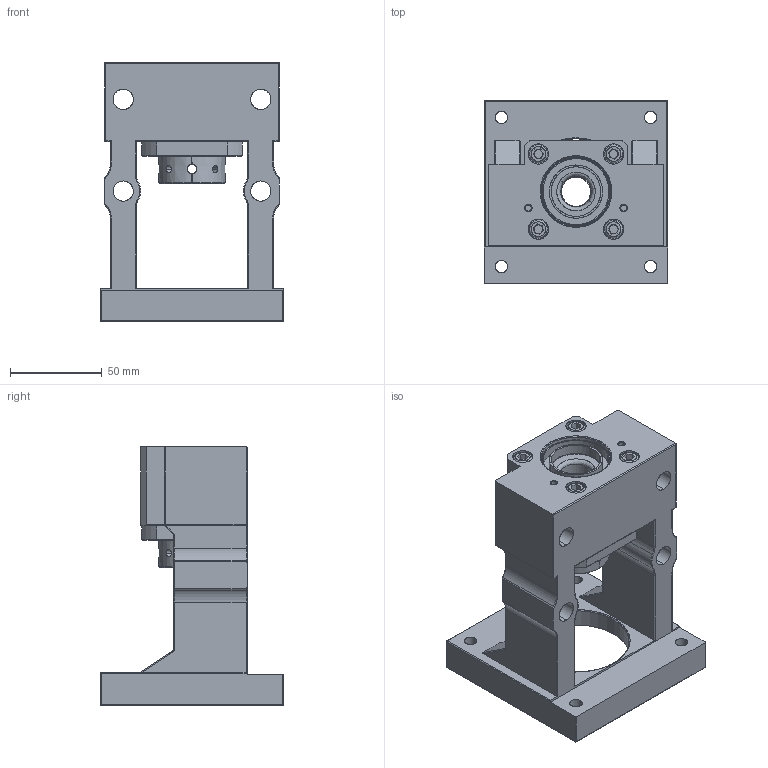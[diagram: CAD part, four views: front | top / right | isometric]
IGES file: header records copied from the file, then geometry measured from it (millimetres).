
Start section: SolidWorks IGES file using analytic representation for surfaces
Global section: file name: C:\Users\117\Desktop\1061208網站3D圖檔問題處理\傳動座\整合型\MBCS(F)\MBCS17\MBCS17-Y.IGS,15HSolidWorks; native system: 2017; preprocessor: SolidWorks 2017; author: 117; date: 171228.155001; units: millimetre
Bounding box: 100 x 100 x 141 mm (x, y, z)
Surface area: 87408 mm2 (no closed solid volume)
Topology: 0 solids, 0 shells, 356 faces, 5656 edges, 5640 vertices
Faces by surface type: revolution 215, bspline 141
